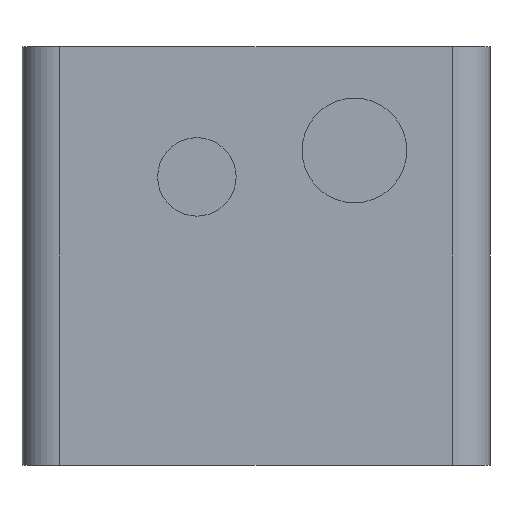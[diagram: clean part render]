
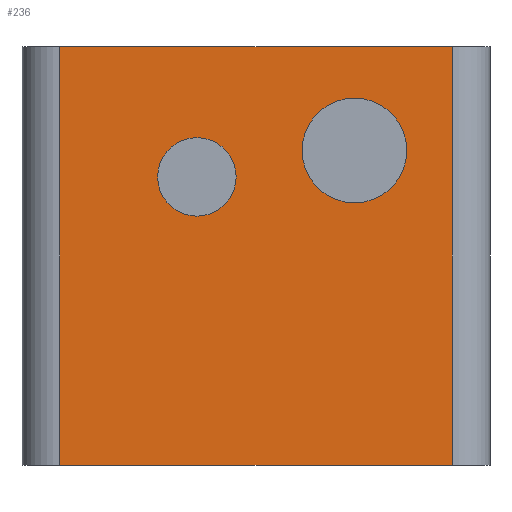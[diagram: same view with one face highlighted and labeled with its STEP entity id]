
A CAD part, left-side view. The second image highlights one B-rep face of the part: STEP entity #236.
In plain terms, the highlighted planar face has unit normal (-1, 0, 0).
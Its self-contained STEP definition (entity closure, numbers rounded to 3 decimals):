
#6 = DIRECTION ( 'NONE',  ( 0., 0., 1. ) ) ;
#30 = EDGE_LOOP ( 'NONE', ( #1072, #661 ) ) ;
#41 = EDGE_CURVE ( 'NONE', #2059, #232, #1281, .T. ) ;
#57 = CARTESIAN_POINT ( 'NONE',  ( -47.2, -37.5, -77. ) ) ;
#88 = DIRECTION ( 'NONE',  ( 0., 0., 1. ) ) ;
#108 = DIRECTION ( 'NONE',  ( -1., 0., 0. ) ) ;
#148 = CARTESIAN_POINT ( 'NONE',  ( -47.2, -18.805, -26.84 ) ) ;
#232 = VERTEX_POINT ( 'NONE', #148 ) ;
#236 = ADVANCED_FACE ( 'NONE', ( #2086, #832, #793 ), #1645, .T. ) ;
#306 = CARTESIAN_POINT ( 'NONE',  ( -47.2, -18.805, -16.84 ) ) ;
#335 = VECTOR ( 'NONE', #1704, 1000. ) ;
#344 = CARTESIAN_POINT ( 'NONE',  ( -47.2, 11.295, -21.89 ) ) ;
#367 = DIRECTION ( 'NONE',  ( 0., -1., 0. ) ) ;
#410 = EDGE_CURVE ( 'NONE', #232, #2059, #1490, .T. ) ;
#420 = DIRECTION ( 'NONE',  ( -1., 0., 0. ) ) ;
#624 = EDGE_CURVE ( 'NONE', #839, #2663, #2722, .T. ) ;
#661 = ORIENTED_EDGE ( 'NONE', *, *, #410, .F. ) ;
#680 = VECTOR ( 'NONE', #1016, 1000. ) ;
#693 = ORIENTED_EDGE ( 'NONE', *, *, #1242, .T. ) ;
#718 = EDGE_CURVE ( 'NONE', #1592, #1868, #1888, .T. ) ;
#793 = FACE_OUTER_BOUND ( 'NONE', #1431, .T. ) ;
#831 = VECTOR ( 'NONE', #1360, 1000. ) ;
#832 = FACE_BOUND ( 'NONE', #2314, .T. ) ;
#839 = VERTEX_POINT ( 'NONE', #1172 ) ;
#850 = ORIENTED_EDGE ( 'NONE', *, *, #718, .F. ) ;
#854 = CARTESIAN_POINT ( 'NONE',  ( -47.2, 37.5, -77. ) ) ;
#865 = AXIS2_PLACEMENT_3D ( 'NONE', #344, #2687, #6 ) ;
#871 = CARTESIAN_POINT ( 'NONE',  ( -47.2, 11.295, -21.89 ) ) ;
#933 = CARTESIAN_POINT ( 'NONE',  ( -47.2, -18.805, -16.84 ) ) ;
#999 = AXIS2_PLACEMENT_3D ( 'NONE', #933, #108, #1572 ) ;
#1016 = DIRECTION ( 'NONE',  ( 0., 0., 1. ) ) ;
#1072 = ORIENTED_EDGE ( 'NONE', *, *, #41, .F. ) ;
#1172 = CARTESIAN_POINT ( 'NONE',  ( -47.2, 37.5, -77. ) ) ;
#1242 = EDGE_CURVE ( 'NONE', #839, #1526, #2321, .T. ) ;
#1281 = CIRCLE ( 'NONE', #2026, 10. ) ;
#1360 = DIRECTION ( 'NONE',  ( 0., 0., 1. ) ) ;
#1393 = CARTESIAN_POINT ( 'NONE',  ( -47.2, -37.5, -77. ) ) ;
#1431 = EDGE_LOOP ( 'NONE', ( #2492, #1462, #693, #2245 ) ) ;
#1462 = ORIENTED_EDGE ( 'NONE', *, *, #624, .F. ) ;
#1470 = CARTESIAN_POINT ( 'NONE',  ( -47.2, -37.5, 3. ) ) ;
#1490 = CIRCLE ( 'NONE', #999, 10. ) ;
#1499 = AXIS2_PLACEMENT_3D ( 'NONE', #2478, #2274, #367 ) ;
#1526 = VERTEX_POINT ( 'NONE', #57 ) ;
#1566 = CARTESIAN_POINT ( 'NONE',  ( -47.2, -18.805, -6.84 ) ) ;
#1572 = DIRECTION ( 'NONE',  ( 0., 0., 1. ) ) ;
#1587 = LINE ( 'NONE', #2582, #2721 ) ;
#1592 = VERTEX_POINT ( 'NONE', #1934 ) ;
#1606 = LINE ( 'NONE', #1393, #831 ) ;
#1645 = PLANE ( 'NONE',  #1499 ) ;
#1689 = EDGE_CURVE ( 'NONE', #1868, #1592, #2499, .T. ) ;
#1704 = DIRECTION ( 'NONE',  ( 0., -1., 0. ) ) ;
#1814 = EDGE_CURVE ( 'NONE', #2663, #2309, #1587, .T. ) ;
#1868 = VERTEX_POINT ( 'NONE', #2296 ) ;
#1888 = CIRCLE ( 'NONE', #2023, 7.5 ) ;
#1934 = CARTESIAN_POINT ( 'NONE',  ( -47.2, 11.295, -14.39 ) ) ;
#2021 = ORIENTED_EDGE ( 'NONE', *, *, #1689, .F. ) ;
#2023 = AXIS2_PLACEMENT_3D ( 'NONE', #871, #420, #2148 ) ;
#2026 = AXIS2_PLACEMENT_3D ( 'NONE', #306, #2609, #88 ) ;
#2030 = CARTESIAN_POINT ( 'NONE',  ( -47.2, 37.5, 3. ) ) ;
#2059 = VERTEX_POINT ( 'NONE', #1566 ) ;
#2082 = CARTESIAN_POINT ( 'NONE',  ( -47.2, 37.5, -77. ) ) ;
#2086 = FACE_BOUND ( 'NONE', #30, .T. ) ;
#2148 = DIRECTION ( 'NONE',  ( 0., 0., 1. ) ) ;
#2222 = EDGE_CURVE ( 'NONE', #1526, #2309, #1606, .T. ) ;
#2223 = DIRECTION ( 'NONE',  ( 0., -1., 0. ) ) ;
#2245 = ORIENTED_EDGE ( 'NONE', *, *, #2222, .T. ) ;
#2274 = DIRECTION ( 'NONE',  ( -1., 0., 0. ) ) ;
#2296 = CARTESIAN_POINT ( 'NONE',  ( -47.2, 11.295, -29.39 ) ) ;
#2309 = VERTEX_POINT ( 'NONE', #1470 ) ;
#2314 = EDGE_LOOP ( 'NONE', ( #850, #2021 ) ) ;
#2321 = LINE ( 'NONE', #854, #335 ) ;
#2478 = CARTESIAN_POINT ( 'NONE',  ( -47.2, 37.5, -77. ) ) ;
#2492 = ORIENTED_EDGE ( 'NONE', *, *, #1814, .F. ) ;
#2499 = CIRCLE ( 'NONE', #865, 7.5 ) ;
#2582 = CARTESIAN_POINT ( 'NONE',  ( -47.2, 37.5, 3. ) ) ;
#2609 = DIRECTION ( 'NONE',  ( -1., 0., 0. ) ) ;
#2663 = VERTEX_POINT ( 'NONE', #2030 ) ;
#2687 = DIRECTION ( 'NONE',  ( -1., 0., 0. ) ) ;
#2721 = VECTOR ( 'NONE', #2223, 1000. ) ;
#2722 = LINE ( 'NONE', #2082, #680 ) ;
